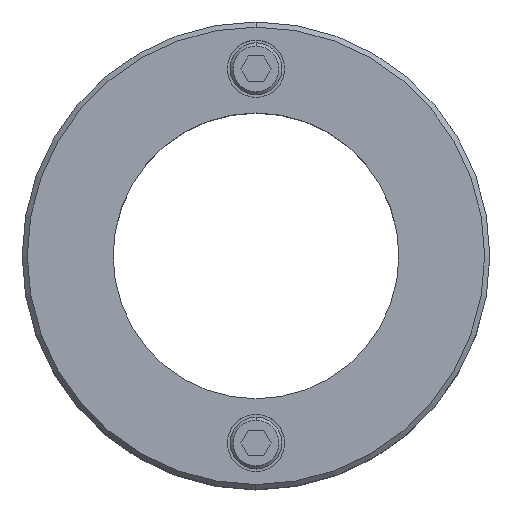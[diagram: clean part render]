
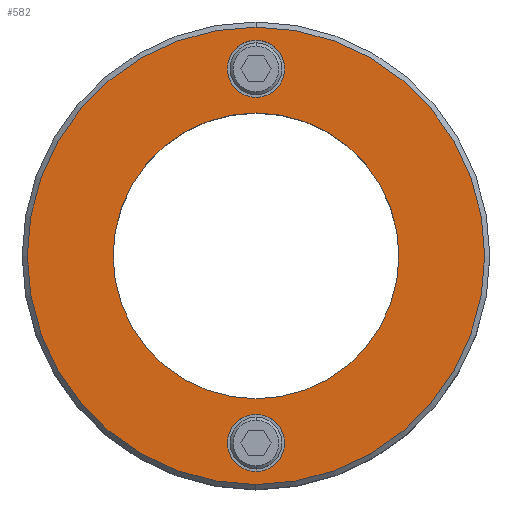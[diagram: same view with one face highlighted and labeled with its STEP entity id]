
A CAD part, top view. The second image highlights one B-rep face of the part: STEP entity #582.
In plain terms, the highlighted planar face has unit normal (0, 0, 1).
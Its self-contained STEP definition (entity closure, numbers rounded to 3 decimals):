
#105=VERTEX_POINT(' ',#106);
#106=CARTESIAN_POINT('',(0.,27.5,35.));
#107=VERTEX_POINT(' ',#108);
#108=CARTESIAN_POINT('',(0.,-27.5,35.));
#117=VERTEX_POINT(' ',#118);
#118=CARTESIAN_POINT('',(0.,41.5,35.));
#119=VERTEX_POINT(' ',#120);
#120=CARTESIAN_POINT('',(0.,30.5,35.));
#125=VERTEX_POINT(' ',#126);
#126=CARTESIAN_POINT('',(0.,-30.5,35.));
#127=VERTEX_POINT(' ',#128);
#128=CARTESIAN_POINT('',(0.,-41.5,35.));
#137=VERTEX_POINT(' ',#138);
#138=CARTESIAN_POINT('',(0.,-44.01,35.));
#139=VERTEX_POINT(' ',#140);
#140=CARTESIAN_POINT('',(0.,44.01,35.));
#199=CIRCLE('',#200,27.5);
#200=AXIS2_PLACEMENT_3D('',#201,#202,#203);
#201=CARTESIAN_POINT('',(0.,0.,35.));
#202=DIRECTION('',(0.,0.,-1.));
#203=DIRECTION('',(-1.,0.,0.));
#204=EDGE_CURVE(' ',#105,#107,#199,.T.);
#205=CIRCLE('',#206,27.5);
#206=AXIS2_PLACEMENT_3D('',#207,#208,#209);
#207=CARTESIAN_POINT('',(0.,0.,35.));
#208=DIRECTION('',(0.,0.,-1.));
#209=DIRECTION('',(1.,0.,0.));
#210=EDGE_CURVE(' ',#107,#105,#205,.T.);
#255=CIRCLE('',#256,5.5);
#256=AXIS2_PLACEMENT_3D('',#257,#258,#259);
#257=CARTESIAN_POINT('',(0.,36.,35.));
#258=DIRECTION('',(0.,0.,1.));
#259=DIRECTION('',(1.,0.,0.));
#260=EDGE_CURVE(' ',#117,#119,#255,.T.);
#277=CIRCLE('',#278,5.5);
#278=AXIS2_PLACEMENT_3D('',#279,#280,#281);
#279=CARTESIAN_POINT('',(0.,36.,35.));
#280=DIRECTION('',(0.,0.,1.));
#281=DIRECTION('',(-1.,0.,0.));
#282=EDGE_CURVE(' ',#119,#117,#277,.T.);
#289=CIRCLE('',#290,5.5);
#290=AXIS2_PLACEMENT_3D('',#291,#292,#293);
#291=CARTESIAN_POINT('',(0.,-36.,35.));
#292=DIRECTION('',(0.,0.,1.));
#293=DIRECTION('',(1.,0.,0.));
#294=EDGE_CURVE(' ',#125,#127,#289,.T.);
#311=CIRCLE('',#312,5.5);
#312=AXIS2_PLACEMENT_3D('',#313,#314,#315);
#313=CARTESIAN_POINT('',(0.,-36.,35.));
#314=DIRECTION('',(0.,0.,1.));
#315=DIRECTION('',(-1.,0.,0.));
#316=EDGE_CURVE(' ',#127,#125,#311,.T.);
#345=CIRCLE('',#346,44.01);
#346=AXIS2_PLACEMENT_3D('',#347,#348,#349);
#347=CARTESIAN_POINT('',(0.,0.,35.));
#348=DIRECTION('',(0.,0.,1.));
#349=DIRECTION('',(-1.,0.,0.));
#350=EDGE_CURVE(' ',#139,#137,#345,.F.);
#351=CIRCLE('',#352,44.01);
#352=AXIS2_PLACEMENT_3D('',#353,#354,#355);
#353=CARTESIAN_POINT('',(0.,0.,35.));
#354=DIRECTION('',(0.,0.,1.));
#355=DIRECTION('',(1.,0.,0.));
#356=EDGE_CURVE(' ',#137,#139,#351,.F.);
#561=ORIENTED_EDGE('',*,*,#350,.F.);
#562=ORIENTED_EDGE('',*,*,#356,.F.);
#563=EDGE_LOOP('',(#561,#562));
#564=FACE_OUTER_BOUND('',#563,.T.);
#565=ORIENTED_EDGE('',*,*,#316,.F.);
#566=ORIENTED_EDGE('',*,*,#294,.F.);
#567=EDGE_LOOP('',(#565,#566));
#568=FACE_BOUND('',#567,.T.);
#569=ORIENTED_EDGE('',*,*,#282,.F.);
#570=ORIENTED_EDGE('',*,*,#260,.F.);
#571=EDGE_LOOP('',(#569,#570));
#572=FACE_BOUND('',#571,.T.);
#573=ORIENTED_EDGE('',*,*,#204,.T.);
#574=ORIENTED_EDGE('',*,*,#210,.T.);
#575=EDGE_LOOP('',(#573,#574));
#576=FACE_BOUND('',#575,.T.);
#577=PLANE('',#578);
#578=AXIS2_PLACEMENT_3D('',#579,#580,#581);
#579=CARTESIAN_POINT('',(45.,0.,35.));
#580=DIRECTION('',(0.,0.,1.));
#581=DIRECTION('',(0.,1.,0.));
#582=ADVANCED_FACE('',(#564,#568,#572,#576),#577,.T.);
